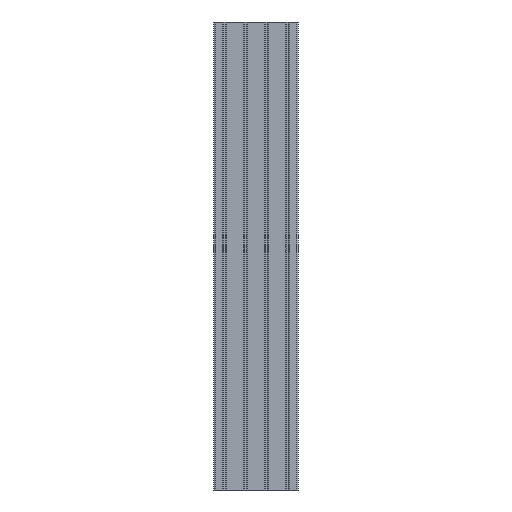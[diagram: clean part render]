
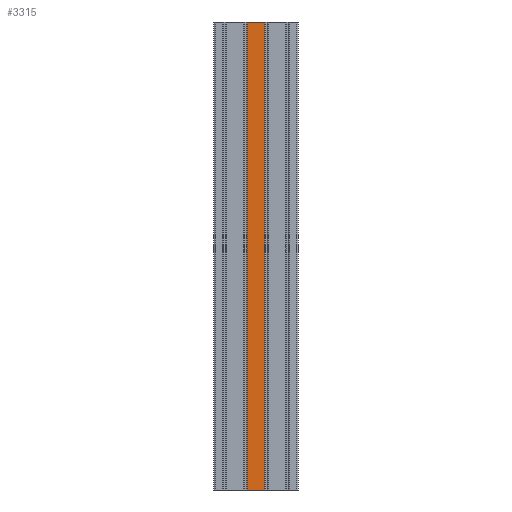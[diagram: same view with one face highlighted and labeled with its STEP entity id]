
A CAD part, left-side view. The second image highlights one B-rep face of the part: STEP entity #3315.
In plain terms, the highlighted planar face has unit normal (-1, 0, 0).
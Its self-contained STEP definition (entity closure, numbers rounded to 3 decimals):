
#547 = DIRECTION ( 'NONE',  ( 0., 0., 1. ) ) ;
#696 = CARTESIAN_POINT ( 'NONE',  ( -22.5, 18.3, 500. ) ) ;
#1225 = VERTEX_POINT ( 'NONE', #15051 ) ;
#1353 = EDGE_CURVE ( 'NONE', #13986, #1225, #9367, .T. ) ;
#1461 = VERTEX_POINT ( 'NONE', #14500 ) ;
#1566 = VECTOR ( 'NONE', #2385, 1000. ) ;
#2145 = CARTESIAN_POINT ( 'NONE',  ( -22.5, 90., -500. ) ) ;
#2385 = DIRECTION ( 'NONE',  ( 0., -1., 0. ) ) ;
#2395 = DIRECTION ( 'NONE',  ( 0., -1., 0. ) ) ;
#3198 = ORIENTED_EDGE ( 'NONE', *, *, #13463, .T. ) ;
#3315 = ADVANCED_FACE ( 'NONE', ( #3330 ), #12946, .T. ) ;
#3330 = FACE_OUTER_BOUND ( 'NONE', #7162, .T. ) ;
#4399 = LINE ( 'NONE', #2145, #1566 ) ;
#6276 = DIRECTION ( 'NONE',  ( 0., -1., 0. ) ) ;
#7162 = EDGE_LOOP ( 'NONE', ( #3198, #9904, #9556, #10788 ) ) ;
#7747 = CARTESIAN_POINT ( 'NONE',  ( -22.5, -18.3, -500. ) ) ;
#8122 = DIRECTION ( 'NONE',  ( 0., 0., 1. ) ) ;
#8921 = LINE ( 'NONE', #9065, #12895 ) ;
#9065 = CARTESIAN_POINT ( 'NONE',  ( -22.5, 18.3, -500. ) ) ;
#9245 = AXIS2_PLACEMENT_3D ( 'NONE', #11545, #12788, #2395 ) ;
#9367 = LINE ( 'NONE', #9524, #12030 ) ;
#9492 = EDGE_CURVE ( 'NONE', #14092, #1225, #13503, .T. ) ;
#9524 = CARTESIAN_POINT ( 'NONE',  ( -22.5, -18.3, -500. ) ) ;
#9556 = ORIENTED_EDGE ( 'NONE', *, *, #9492, .F. ) ;
#9904 = ORIENTED_EDGE ( 'NONE', *, *, #1353, .T. ) ;
#10361 = VECTOR ( 'NONE', #6276, 1000. ) ;
#10788 = ORIENTED_EDGE ( 'NONE', *, *, #14059, .F. ) ;
#11545 = CARTESIAN_POINT ( 'NONE',  ( -22.5, 90., -500. ) ) ;
#12030 = VECTOR ( 'NONE', #8122, 1000. ) ;
#12339 = CARTESIAN_POINT ( 'NONE',  ( -22.5, 90., 500. ) ) ;
#12788 = DIRECTION ( 'NONE',  ( -1., 0., 0. ) ) ;
#12895 = VECTOR ( 'NONE', #547, 1000. ) ;
#12946 = PLANE ( 'NONE',  #9245 ) ;
#13463 = EDGE_CURVE ( 'NONE', #1461, #13986, #4399, .T. ) ;
#13503 = LINE ( 'NONE', #12339, #10361 ) ;
#13986 = VERTEX_POINT ( 'NONE', #7747 ) ;
#14059 = EDGE_CURVE ( 'NONE', #1461, #14092, #8921, .T. ) ;
#14092 = VERTEX_POINT ( 'NONE', #696 ) ;
#14500 = CARTESIAN_POINT ( 'NONE',  ( -22.5, 18.3, -500. ) ) ;
#15051 = CARTESIAN_POINT ( 'NONE',  ( -22.5, -18.3, 500. ) ) ;
